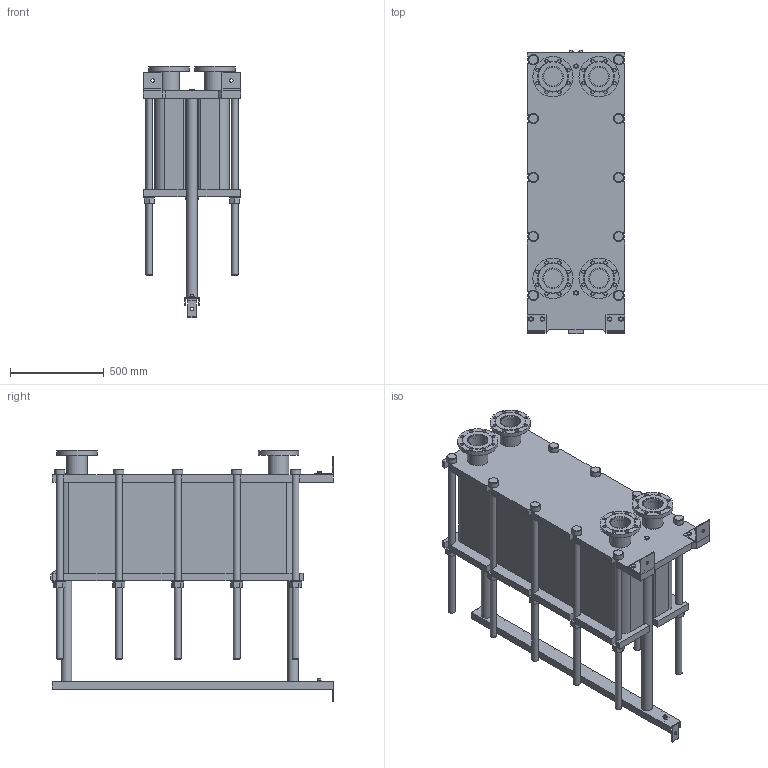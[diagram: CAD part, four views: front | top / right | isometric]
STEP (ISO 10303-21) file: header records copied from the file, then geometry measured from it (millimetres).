
FILE_DESCRIPTION(/* description */ (''),/* implementation_level */ '2;1');
FILE_NAME(/* name */ 'C:\Users\zhuro\Desktop\ENCO\TO\ЭН-04\ЭН-0,5-04-141-1.stp',/* time_stamp */ '2022-06-06T10:58:03+03:00',/* author */ ('zhuro'),/* organization */ (''),/* preprocessor_version */ 'ST-DEVELOPER v18.1',/* originating_system */ 'Autodesk Inventor 2022',/* authorisation */ '');
FILE_SCHEMA (('AUTOMOTIVE_DESIGN { 1 0 10303 214 3 1 1 }'));
Length unit declared in the file: millimetre
Products named in the file (1): ЭН-0,5-04-141-1
Bounding box: 520 x 1510 x 1340.5 mm (x, y, z)
Volume: 316519283.5 mm3; surface area: 9256855.8 mm2
Topology: 45 solids, 45 shells, 668 faces, 1611 edges, 1048 vertices
Faces by surface type: plane 457, cylinder 166, cone 39, torus 6
Full cylindrical faces by diameter (mm): 8 x4, 10 x2, 16 x8, 18 x35, 36 x25, 40 x2, 42 x1, 45 x4, 54 x10, 57 x2, 60 x10, 68 x2, 100 x4, 110 x8, 215 x4
Entity records: 23607 total; most frequent: CARTESIAN_POINT 7348, DIRECTION 3371, ORIENTED_EDGE 3142, EDGE_CURVE 1571, AXIS2_PLACEMENT_3D 1199, VERTEX_POINT 1044, LINE 973, VECTOR 973
